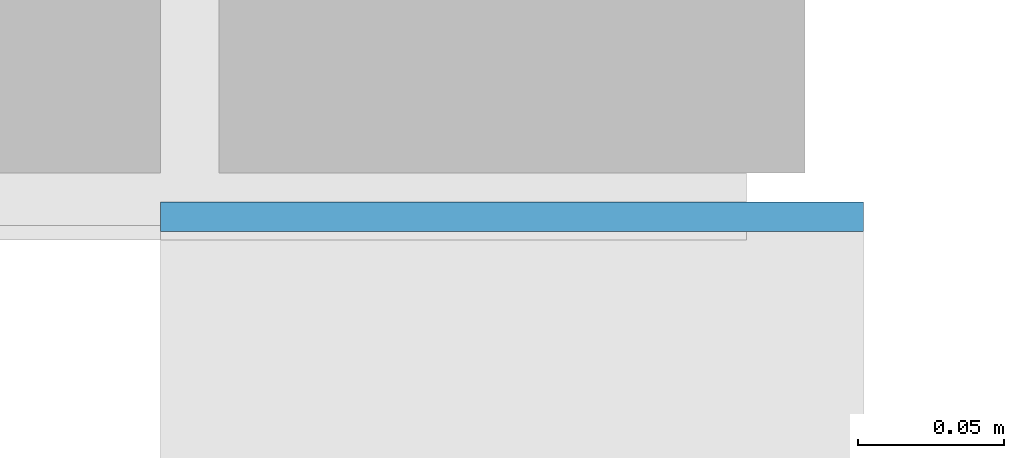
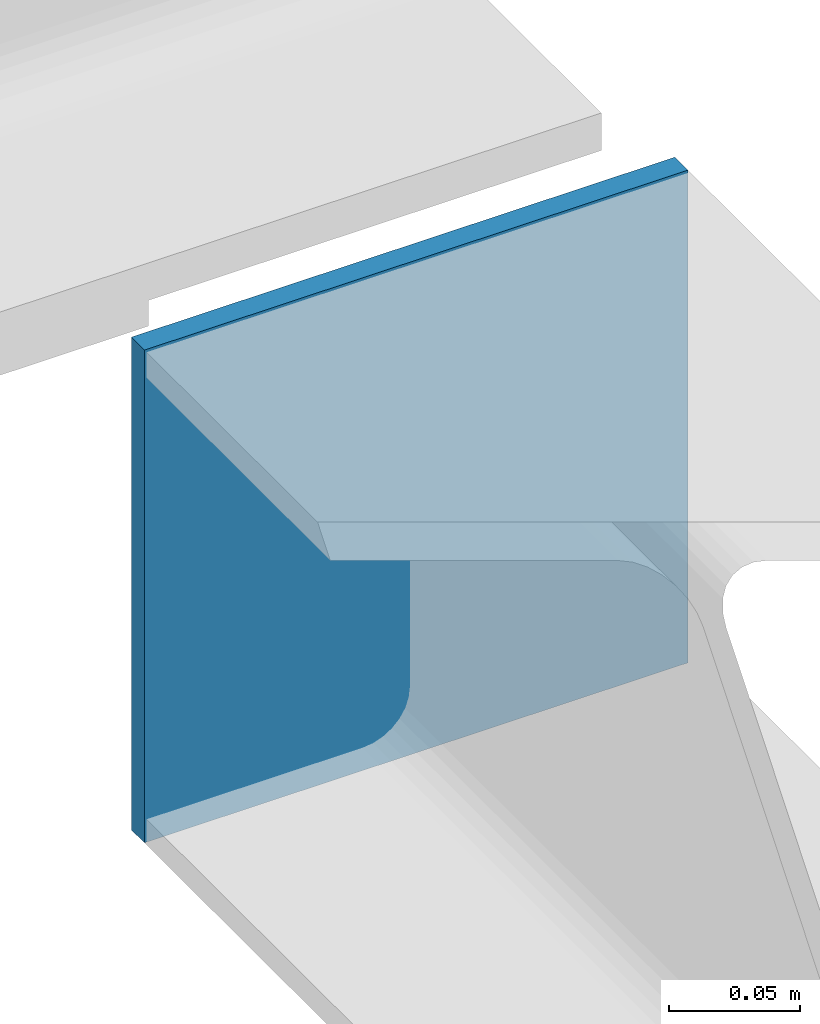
# One storey, part 10 of 27: 1 column.
"""IFC2X3 building model written with IfcOpenShell, lengths in millimetres."""

import ifcopenshell
import ifcopenshell.guid

model = None  # the IFC model being written
_history = None  # IfcOwnerHistory: only IFC2X3 demands one
_inside = {}  # id of a spatial element -> (the spatial element, [elements in it])
_under = {}  # id of a project, library or spatial element -> (it, [spatial elements below it])
_declared = {}  # id of a project -> (the project, [libraries it declares])
_typed = {}  # id of a type object -> (the type object, [elements of that type])
_made_of = {}  # id of a material, layer set ... -> (it, [elements and type objects made of it])


def new_model(schema):
    """Start an empty IFC model of exactly this schema.

    Asked for "IFC4X3", IfcOpenShell would pick the latest addendum, in which some entities
    have other attributes; the version numbers below select the first issue.
    IFC2X3 requires an IfcOwnerHistory on every rooted entity: one is made here for all.
    """
    global model, _history
    if schema == "IFC4X3":
        model = ifcopenshell.file(schema_version=(4, 3, 0, 0))
    else:
        model = ifcopenshell.file(schema=schema)
    _inside.clear()
    _under.clear()
    _declared.clear()
    _typed.clear()
    _made_of.clear()
    _history = None
    if model.schema == "IFC2X3":
        org = make("IfcOrganization", Name="unknown")
        user = make(
            "IfcPersonAndOrganization",
            ThePerson=make("IfcPerson", FamilyName="unknown"),
            TheOrganization=org,
        )
        app = make(
            "IfcApplication",
            ApplicationDeveloper=org,
            Version="unknown",
            ApplicationFullName="unknown",
            ApplicationIdentifier="unknown",
        )
        _history = make(
            "IfcOwnerHistory",
            OwningUser=user,
            OwningApplication=app,
            ChangeAction="ADDED",
            CreationDate=0,
        )
    return model


def make(cls, **values):
    """One entity of the class cls with the attributes given. An attribute that is None is left unset."""
    return model.create_entity(
        cls, **{name: value for name, value in values.items() if value is not None}
    )


def entity(cls, *values):
    """Any entity or typed value of the class cls, its attributes in the order of the schema. None: left unset."""
    e = model.create_entity(cls)
    for i, value in enumerate(values):
        if value is not None:
            e[i] = value
    return e


def rooted(cls, **values):
    """An entity with a GlobalId (a new one), such as an element, a storey or a relation."""
    return make(cls, GlobalId=ifcopenshell.guid.new(), OwnerHistory=_history, **values)


def si_unit(unit_type, name, prefix=None):
    """IfcSIUnit, for example si_unit("LENGTHUNIT", "METRE", prefix="MILLI")."""
    return make("IfcSIUnit", UnitType=unit_type, Prefix=prefix, Name=name)


def converted_unit(unit_type, name, factor, base, dimensions=None, offset=None):
    """IfcConversionBasedUnit, such as the inch: factor (a typed value) times the base unit."""
    return make(
        "IfcConversionBasedUnit"
        if offset is None
        else "IfcConversionBasedUnitWithOffset",
        ConversionOffset=offset,
        Dimensions=None
        if dimensions is None
        else entity("IfcDimensionalExponents", *dimensions),
        UnitType=unit_type,
        Name=name,
        ConversionFactor=make(
            "IfcMeasureWithUnit", ValueComponent=factor, UnitComponent=base
        ),
    )


def derived_unit(unit_type, elements):
    """IfcDerivedUnit: a product of units, each with its exponent."""
    return make(
        "IfcDerivedUnit",
        Elements=[
            make("IfcDerivedUnitElement", Unit=unit, Exponent=power)
            for unit, power in elements
        ],
        UnitType=unit_type,
    )


def assignment(units):
    """IfcUnitAssignment: the units of a project."""
    return None if units is None else make("IfcUnitAssignment", Units=units)


def point(xyz):
    """IfcCartesianPoint."""
    return None if xyz is None else make("IfcCartesianPoint", Coordinates=xyz)


def direction(xyz):
    """IfcDirection."""
    return None if xyz is None else make("IfcDirection", DirectionRatios=xyz)


def frame(location, z_axis=None, x_axis=None):
    """IfcAxis2Placement3D, a coordinate frame: its origin and axes. An axis left out is left unset."""
    return make(
        "IfcAxis2Placement3D",
        Location=point(location),
        Axis=direction(z_axis),
        RefDirection=direction(x_axis),
    )


def frame_2d(location, x_axis=None):
    """IfcAxis2Placement2D, a coordinate frame in the plane: its origin and x axis."""
    return make(
        "IfcAxis2Placement2D", Location=point(location), RefDirection=direction(x_axis)
    )


def origin():
    """The frame at (0, 0, 0) with its axes left unset."""
    return frame((0.0, 0.0, 0.0))


def origin_2d_with_axis():
    """The frame at (0, 0) in the plane with the x axis (1, 0) written out."""
    return frame_2d((0.0, 0.0), x_axis=(1.0, 0.0))


def place(relative_to, where):
    """IfcLocalPlacement: puts the frame where relative to a parent placement (None: the world)."""
    return make(
        "IfcLocalPlacement", PlacementRelTo=relative_to, RelativePlacement=where
    )


def context(
    kind, dimensions, precision=None, world=None, true_north=None, identifier=None
):
    """IfcGeometricRepresentationContext, for example the 3D "Model" context."""
    return make(
        "IfcGeometricRepresentationContext",
        ContextIdentifier=identifier,
        ContextType=kind,
        CoordinateSpaceDimension=dimensions,
        Precision=precision,
        WorldCoordinateSystem=world,
        TrueNorth=true_north,
    )


def subcontext(parent, identifier, kind, view, scale=None):
    """IfcGeometricRepresentationSubContext, for example "Body" below "Model"."""
    return make(
        "IfcGeometricRepresentationSubContext",
        ContextIdentifier=identifier,
        ContextType=kind,
        ParentContext=parent,
        TargetScale=scale,
        TargetView=view,
    )


def project(units=None, contexts=None):
    """IfcProject with its units and contexts."""
    return rooted(
        "IfcProject",
        Name="project",
        RepresentationContexts=contexts,
        UnitsInContext=assignment(units),
    )


def spatial(cls, under=None, at=None, **own):
    """A site, building, storey or space (cls), placed at a placement, below another one or the project."""
    s = rooted(cls, ObjectPlacement=at, **own)
    if under is not None:
        _under.setdefault(under.id(), (under, []))[1].append(s)
    return s


def profile(cls, at=None, kind="AREA", **sizes):
    """A parametric profile (cls). Its sizes go by their IFC names, for example OverallWidth=200.0."""
    return make(cls, ProfileType=kind, Position=at, **sizes)


def rectangle(**sizes):
    """IfcRectangleProfileDef."""
    return profile("IfcRectangleProfileDef", **sizes)


def extrude(swept, where, along, depth):
    """IfcExtrudedAreaSolid: the profile swept, set in the frame where, extruded along a direction by depth."""
    return make(
        "IfcExtrudedAreaSolid",
        SweptArea=swept,
        Position=where,
        ExtrudedDirection=direction(along),
        Depth=depth,
    )


def shape(context_of_items, identifier, shape_type, items):
    """IfcShapeRepresentation: the items that make up one representation, for example the "Body"."""
    return make(
        "IfcShapeRepresentation",
        ContextOfItems=context_of_items,
        RepresentationIdentifier=identifier,
        RepresentationType=shape_type,
        Items=items,
    )


def source(mapping_origin, context_of_items, identifier, shape_type, items):
    """IfcRepresentationMap: a shape defined once, which mapped items show again and again."""
    return make(
        "IfcRepresentationMap",
        MappingOrigin=mapping_origin,
        MappedRepresentation=shape(context_of_items, identifier, shape_type, items),
    )


def transform(
    local_origin,
    x_axis=None,
    y_axis=None,
    z_axis=None,
    scale=None,
    scale2=None,
    scale3=None,
    uniform=True,
):
    """IfcCartesianTransformationOperator3D, or its non-uniform kind. x_axis, y_axis, z_axis: its Axis1, 2, 3."""
    if uniform:
        return make(
            "IfcCartesianTransformationOperator3D",
            Axis1=direction(x_axis),
            Axis2=direction(y_axis),
            LocalOrigin=point(local_origin),
            Scale=scale,
            Axis3=direction(z_axis),
        )
    return make(
        "IfcCartesianTransformationOperator3DnonUniform",
        Axis1=direction(x_axis),
        Axis2=direction(y_axis),
        LocalOrigin=point(local_origin),
        Scale=scale,
        Axis3=direction(z_axis),
        Scale2=scale2,
        Scale3=scale3,
    )


def mapped(mapping_source, mapping_target):
    """IfcMappedItem: shows the shape of a source again, moved by a transform."""
    return make(
        "IfcMappedItem", MappingSource=mapping_source, MappingTarget=mapping_target
    )


def material(Name=None, Category=None):
    """IfcMaterial."""
    return make("IfcMaterial", Name=Name, Category=Category)


def made_of(thing, what):
    """Note that an element or type object is made of a material, layer set ...; save() writes the relation."""
    if what is not None:
        _made_of.setdefault(what.id(), (what, []))[1].append(thing)
    return thing


def type_object(cls, material=None, **own):
    """A type object (cls), such as IfcWallType, which elements share."""
    return made_of(rooted(cls, **own), material)


def type_shapes(of_type, sources):
    """Give a type object the sources (RepresentationMaps) that its elements show as mapped items."""
    of_type.RepresentationMaps = sources


def element(
    cls,
    number,
    at=None,
    inside=None,
    cuts=None,
    type_object=None,
    material=None,
    context=None,
    identifier="Body",
    shape_type=None,
    held_by="IfcProductDefinitionShape",
    body=None,
    shapes=None,
    **own,
):
    """One element of the class cls, such as IfcWall. Its Tag is "e" and its number.

    at: its placement. inside: the storey or other place that contains it. cuts: it is an
    opening in that element (IfcRelVoidsElement). A single representation is given by context,
    identifier, shape_type and body (its items); several are given by shapes. held_by: the class
    of the entity that holds the representations. save() writes the other relations.
    """
    e = rooted(cls, Tag="e%d" % number, ObjectPlacement=at, **own)
    if body is not None:
        shapes = [shape(context, identifier, shape_type, body)]
    if shapes is not None:
        e.Representation = make(held_by, Representations=shapes)
    if inside is not None:
        _inside.setdefault(inside.id(), (inside, []))[1].append(e)
    if cuts is not None:
        rooted(
            "IfcRelVoidsElement", RelatingBuildingElement=cuts, RelatedOpeningElement=e
        )
    if type_object is not None:
        _typed.setdefault(type_object.id(), (type_object, []))[1].append(e)
    return made_of(e, material)


def aggregate(whole, parts):
    """IfcRelAggregates: a whole, such as a stair, and the parts it consists of."""
    return rooted("IfcRelAggregates", RelatingObject=whole, RelatedObjects=parts)


def save(model, path):
    """Write the relations noted so far, then the file.

    IfcRelAggregates (storeys below a building ...), IfcRelContainedInSpatialStructure (elements
    in a storey), IfcRelDefinesByType, IfcRelAssociatesMaterial and IfcRelDeclares: one each for
    every whole, place, type object, material and project.
    """
    for whole, parts in _under.values():
        aggregate(whole, parts)
    for where, things in _inside.values():
        rooted(
            "IfcRelContainedInSpatialStructure",
            RelatedElements=things,
            RelatingStructure=where,
        )
    for kind, things in _typed.values():
        rooted("IfcRelDefinesByType", RelatedObjects=things, RelatingType=kind)
    for what, things in _made_of.values():
        rooted("IfcRelAssociatesMaterial", RelatedObjects=things, RelatingMaterial=what)
    for by, libraries in _declared.values():
        rooted("IfcRelDeclares", RelatingContext=by, RelatedDefinitions=libraries)
    model.write(path)


model = new_model("IFC2X3")

# Units and contexts
model_context = context("Model", 3, precision=0.01, world=origin(), true_north=direction((6.12303176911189e-17, 1.0)))
body_context = subcontext(model_context, "Body", "Model", "MODEL_VIEW")
ifc_project = project(units=[si_unit("LENGTHUNIT", "METRE", prefix="MILLI"), si_unit("AREAUNIT", "SQUARE_METRE"), si_unit("VOLUMEUNIT", "CUBIC_METRE"), converted_unit("PLANEANGLEUNIT", "DEGREE", entity("IfcRatioMeasure", 0.0174532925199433), si_unit("PLANEANGLEUNIT", "RADIAN"), dimensions=[0, 0, 0, 0, 0, 0, 0]), si_unit("MASSUNIT", "GRAM", prefix="KILO"), derived_unit("MASSDENSITYUNIT", [(si_unit("MASSUNIT", "GRAM", prefix="KILO"), 1), (si_unit("LENGTHUNIT", "METRE"), -3)]), si_unit("TIMEUNIT", "SECOND"), si_unit("FREQUENCYUNIT", "HERTZ"), si_unit("THERMODYNAMICTEMPERATUREUNIT", "DEGREE_CELSIUS"), derived_unit("THERMALTRANSMITTANCEUNIT", [(si_unit("MASSUNIT", "GRAM", prefix="KILO"), 1), (si_unit("THERMODYNAMICTEMPERATUREUNIT", "KELVIN"), -1), (si_unit("TIMEUNIT", "SECOND"), -3)]), derived_unit("VOLUMETRICFLOWRATEUNIT", [(si_unit("LENGTHUNIT", "METRE"), 3), (si_unit("TIMEUNIT", "SECOND"), -1)]), si_unit("ELECTRICCURRENTUNIT", "AMPERE"), si_unit("ELECTRICVOLTAGEUNIT", "VOLT"), si_unit("POWERUNIT", "WATT"), si_unit("FORCEUNIT", "NEWTON", prefix="KILO"), si_unit("ILLUMINANCEUNIT", "LUX"), si_unit("LUMINOUSFLUXUNIT", "LUMEN"), si_unit("LUMINOUSINTENSITYUNIT", "CANDELA"), derived_unit("USERDEFINED", [(si_unit("MASSUNIT", "GRAM", prefix="KILO"), -1), (si_unit("LENGTHUNIT", "METRE"), -2), (si_unit("TIMEUNIT", "SECOND"), 3), (si_unit("LUMINOUSFLUXUNIT", "LUMEN"), 1)]), derived_unit("LINEARVELOCITYUNIT", [(si_unit("LENGTHUNIT", "METRE"), 1), (si_unit("TIMEUNIT", "SECOND"), -1)]), si_unit("PRESSUREUNIT", "PASCAL"), derived_unit("USERDEFINED", [(si_unit("LENGTHUNIT", "METRE"), -2), (si_unit("MASSUNIT", "GRAM", prefix="KILO"), 1), (si_unit("TIMEUNIT", "SECOND"), -2)])], contexts=[model_context])

# Site, building, storey
site_placement = place(None, origin())
site = spatial("IfcSite", under=ifc_project, at=site_placement, Name="Default", CompositionType="ELEMENT")
building_placement = place(site_placement, origin())
building = spatial("IfcBuilding", under=site, at=building_placement, Name="niet gebruiken", CompositionType="ELEMENT")
storey_placement = place(building_placement, frame((0.0, 0.0, 6000.0)))
storey = spatial("IfcBuildingStorey", under=building, at=storey_placement, Name="01 eerste verdieping", CompositionType="ELEMENT", Elevation=6000.0)

# Column
ifc_material = material(Name="NLRS_h2_staal")
column_type = type_object("IfcColumnType", Name="kolom stripstaal RECT_240x10", PredefinedType="COLUMN", material=ifc_material)
shared_shape = source(origin(), body_context, "Body", "SweptSolid", [
    extrude(rectangle(XDim=10.0, YDim=240.0, at=origin_2d_with_axis()), frame((0.0, 0.0, 5325.0), z_axis=(0.0, 0.0, 1.0), x_axis=(0.0, -1.0, 0.0)), (0.0, 0.0, 1.0), 230.000000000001),
])
type_shapes(column_type, [shared_shape])
column_placement = place(storey_placement, frame((163290.0, 33755.0, -6000.0)))
element("IfcColumn", 1, at=column_placement, inside=storey, type_object=column_type, material=ifc_material, Name="NLRS_28.11_SCO_TLB_stalen kolom stripstaal_gen:kolom stripstaal RECT_240x10", ObjectType="kolom stripstaal RECT_240x10", context=body_context, shape_type="MappedRepresentation", body=[
    mapped(shared_shape, transform((0.0, 0.0, 0.0), scale=1.0)),
])

save(model, "model.ifc")
